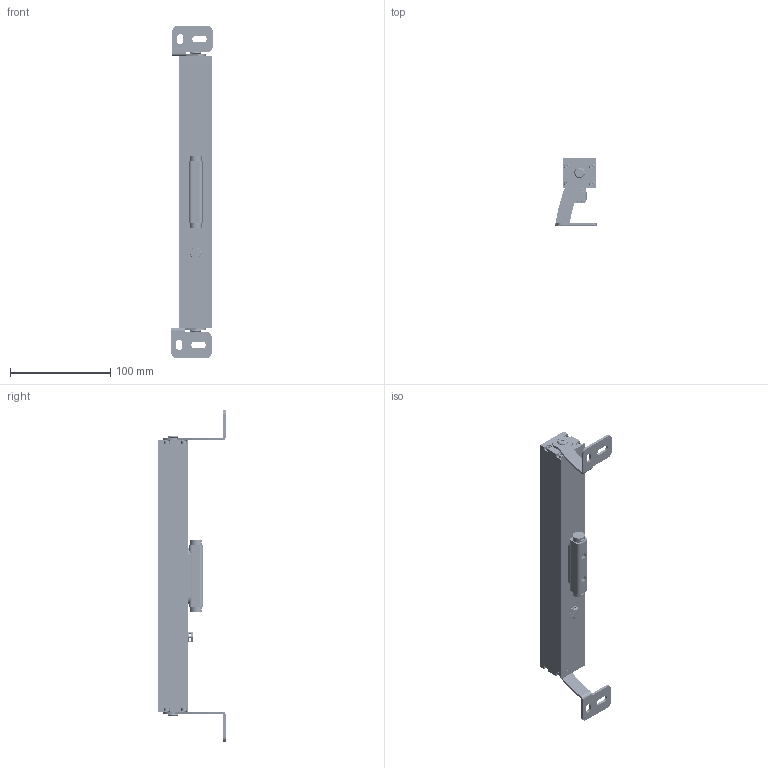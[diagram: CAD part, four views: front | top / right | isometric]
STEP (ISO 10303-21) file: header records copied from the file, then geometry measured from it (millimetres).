
FILE_DESCRIPTION((''),'2;1');
FILE_NAME('B6HC1256_ASM','2025-09-03T',('Administrator'),(''),'CREO PARAMETRIC BY PTC INC, 2015200','CREO PARAMETRIC BY PTC INC, 2015200','');
FILE_SCHEMA(('CONFIG_CONTROL_DESIGN'));
Products named in the file (26): 6HC-B; 6HC-ZYG; 6JB-A; PAIQIHUA_1_1_3_1_1_2; 527_STP_1; 527_STP_2; 527_STP_3; 527_STP_4; 527_STP_5; 527_STP_6; 527_STP_7; 527_STP_8; 527_STP_9; 527_STP_10; 527_STP_11; 527_STP_ASM; 2GB-DPA; 05279999999_ASM; MSBR-18_4_25_2; 2GB-FGQ; 2GB-BBLI; 2GB-GGGBBBB; 2GB-GGGGGG; M3X0_5X5L; M4; B6HC1256_ASM
Assembly tree (46 placements, depth 4):
  B6HC1256_ASM
    6HC-B
    6HC-ZYG  x2
    6JB-A
    PAIQIHUA_1_1_3_1_1_2
    05279999999_ASM
      527_STP_ASM
        527_STP_1
        527_STP_2
        527_STP_3
        527_STP_4
        527_STP_5
        527_STP_6
        527_STP_7
        527_STP_8
        527_STP_9
        527_STP_10
        527_STP_11
      2GB-DPA
    MSBR-18_4_25_2  x12
    2GB-FGQ  x2
    2GB-BBLI
    2GB-GGGBBBB
    2GB-GGGGGG
    M3X0_5X5L  x8
    M4  x2
Bounding box: 41.02 x 67.35 x 330.6 mm (x, y, z)
Volume: 167157.3 mm3; surface area: 137877.5 mm2
Topology: 44 solids, 44 shells, 7291 faces, 20520 edges, 13670 vertices
Faces by surface type: sphere 3552, plane 1444, bspline 1440, cylinder 429, cone 354, torus 48, revolution 24
Entity records: 105172 total; most frequent: CARTESIAN_POINT 55006, ORIENTED_EDGE 11664, DIRECTION 7846, EDGE_CURVE 5832, VERTEX_POINT 3860, VECTOR 2650, LINE 2650, AXIS2_PLACEMENT_3D 2597
